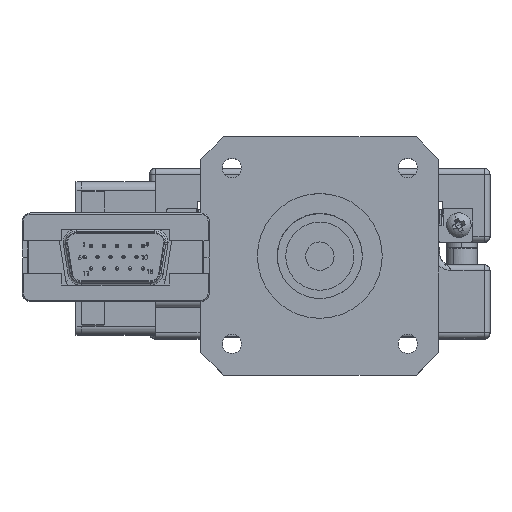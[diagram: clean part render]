
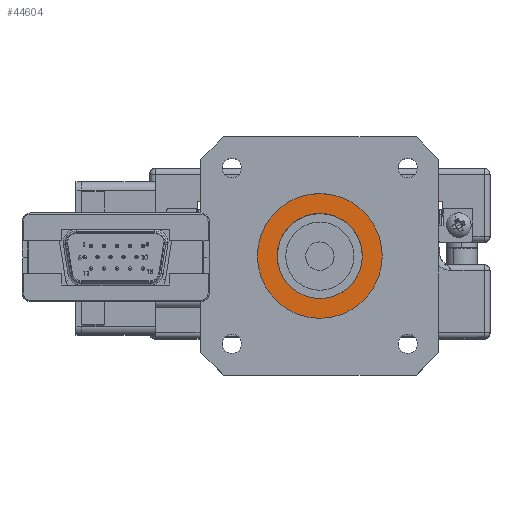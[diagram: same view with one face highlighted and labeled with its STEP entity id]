
A CAD part, top view. The second image highlights one B-rep face of the part: STEP entity #44604.
In plain terms, the highlighted planar face has unit normal (0, 0, 1).
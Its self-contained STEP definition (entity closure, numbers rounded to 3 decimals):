
#4949 = ORIENTED_EDGE ( 'NONE', *, *, #89077, .T. ) ;
#9042 = CIRCLE ( 'NONE', #69910, 11. ) ;
#18460 = CARTESIAN_POINT ( 'NONE',  ( 0., 14.5, 27. ) ) ;
#20856 = CARTESIAN_POINT ( 'NONE',  ( 0., 14.5, 27. ) ) ;
#20985 = DIRECTION ( 'NONE',  ( 1., 0., 0. ) ) ;
#26617 = PLANE ( 'NONE',  #146726 ) ;
#39925 = CARTESIAN_POINT ( 'NONE',  ( 0., 14.5, 27. ) ) ;
#40463 = DIRECTION ( 'NONE',  ( 0., 0., 1. ) ) ;
#41312 = CARTESIAN_POINT ( 'NONE',  ( 0., 14.5, 27. ) ) ;
#44604 = ADVANCED_FACE ( 'NONE', ( #67338, #54341 ), #26617, .T. ) ;
#47310 = DIRECTION ( 'NONE',  ( 1., 0., 0. ) ) ;
#54341 = FACE_BOUND ( 'NONE', #84195, .T. ) ;
#58150 = DIRECTION ( 'NONE',  ( 1., 0., 0. ) ) ;
#61031 = CARTESIAN_POINT ( 'NONE',  ( 11., 14.5, 27. ) ) ;
#67338 = FACE_OUTER_BOUND ( 'NONE', #138526, .T. ) ;
#67806 = CARTESIAN_POINT ( 'NONE',  ( 0., 14.5, 27. ) ) ;
#69910 = AXIS2_PLACEMENT_3D ( 'NONE', #20856, #97169, #58150 ) ;
#70188 = DIRECTION ( 'NONE',  ( 0., 0., -1. ) ) ;
#72967 = DIRECTION ( 'NONE',  ( 0., 0., 1. ) ) ;
#73686 = EDGE_CURVE ( 'NONE', #99720, #152852, #153155, .T. ) ;
#80444 = ORIENTED_EDGE ( 'NONE', *, *, #144020, .T. ) ;
#84195 = EDGE_LOOP ( 'NONE', ( #4949, #80444 ) ) ;
#89077 = EDGE_CURVE ( 'NONE', #168198, #105633, #161970, .T. ) ;
#92318 = CARTESIAN_POINT ( 'NONE',  ( -11., 14.5, 27. ) ) ;
#93346 = DIRECTION ( 'NONE',  ( 1., 0., 0. ) ) ;
#95357 = DIRECTION ( 'NONE',  ( 1., 0., 0. ) ) ;
#97169 = DIRECTION ( 'NONE',  ( 0., 0., 1. ) ) ;
#99720 = VERTEX_POINT ( 'NONE', #61031 ) ;
#100478 = AXIS2_PLACEMENT_3D ( 'NONE', #67806, #106824, #47310 ) ;
#105633 = VERTEX_POINT ( 'NONE', #170263 ) ;
#106081 = CIRCLE ( 'NONE', #100478, 7.5 ) ;
#106824 = DIRECTION ( 'NONE',  ( 0., 0., -1. ) ) ;
#125970 = AXIS2_PLACEMENT_3D ( 'NONE', #39925, #70188, #95357 ) ;
#138526 = EDGE_LOOP ( 'NONE', ( #161320, #145064 ) ) ;
#142018 = AXIS2_PLACEMENT_3D ( 'NONE', #18460, #72967, #20985 ) ;
#143079 = CARTESIAN_POINT ( 'NONE',  ( 7.5, 14.5, 27. ) ) ;
#143115 = EDGE_CURVE ( 'NONE', #152852, #99720, #9042, .T. ) ;
#144020 = EDGE_CURVE ( 'NONE', #105633, #168198, #106081, .T. ) ;
#145064 = ORIENTED_EDGE ( 'NONE', *, *, #143115, .T. ) ;
#146726 = AXIS2_PLACEMENT_3D ( 'NONE', #41312, #40463, #93346 ) ;
#152852 = VERTEX_POINT ( 'NONE', #92318 ) ;
#153155 = CIRCLE ( 'NONE', #142018, 11. ) ;
#161320 = ORIENTED_EDGE ( 'NONE', *, *, #73686, .T. ) ;
#161970 = CIRCLE ( 'NONE', #125970, 7.5 ) ;
#168198 = VERTEX_POINT ( 'NONE', #143079 ) ;
#170263 = CARTESIAN_POINT ( 'NONE',  ( -7.5, 14.5, 27. ) ) ;
